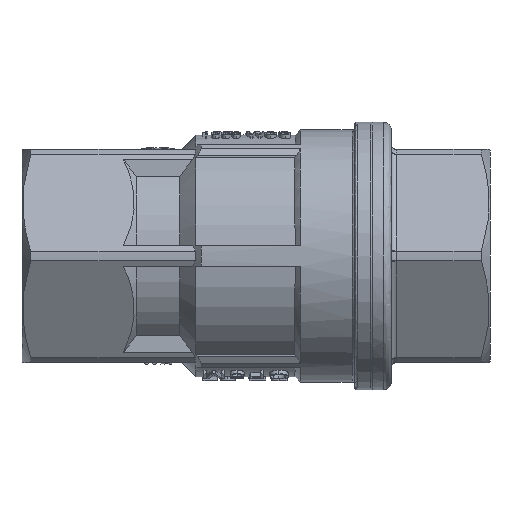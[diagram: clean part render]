
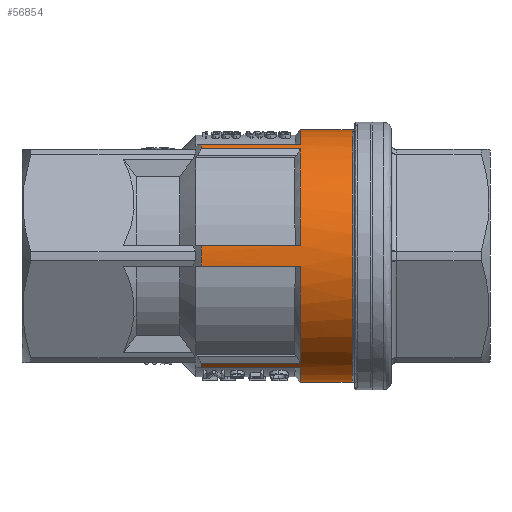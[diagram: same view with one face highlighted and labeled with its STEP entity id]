
A CAD part, front view. The second image highlights one B-rep face of the part: STEP entity #56854.
In plain terms, the highlighted cylindrical face has radius 24.25 mm (diameter 48.5 mm), a partial arc.
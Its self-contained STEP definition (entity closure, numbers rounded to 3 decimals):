
#25782 = CARTESIAN_POINT ( 'NONE',  ( -10.55, -12.769, 20.616 ) ) ;
#25856 = CARTESIAN_POINT ( 'NONE',  ( -10.55, -11.47, 21.366 ) ) ;
#25860 = DIRECTION ( 'NONE',  ( 0., -1., 0. ) ) ;
#25861 = DIRECTION ( 'NONE',  ( -1., 0., 0. ) ) ;
#25862 = CARTESIAN_POINT ( 'NONE',  ( -10.55, 0., 0. ) ) ;
#25863 = AXIS2_PLACEMENT_3D ( 'NONE', #25862, #25861, #25860 ) ;
#25865 = CARTESIAN_POINT ( 'NONE',  ( -10.55, -12.769, -20.616 ) ) ;
#25873 = CIRCLE ( 'NONE', #25863, 24.25 ) ;
#25878 = DIRECTION ( 'NONE',  ( 0., -1., 0. ) ) ;
#25880 = DIRECTION ( 'NONE',  ( -1., 0., 0. ) ) ;
#25882 = CARTESIAN_POINT ( 'NONE',  ( -10.55, 0., 0. ) ) ;
#25883 = AXIS2_PLACEMENT_3D ( 'NONE', #25882, #25880, #25878 ) ;
#25885 = CIRCLE ( 'NONE', #25883, 24.25 ) ;
#25904 = CARTESIAN_POINT ( 'NONE',  ( -10.55, -24.167, 2. ) ) ;
#25905 = DIRECTION ( 'NONE',  ( 0., -1., 0. ) ) ;
#25906 = DIRECTION ( 'NONE',  ( -1., 0., 0. ) ) ;
#25908 = AXIS2_PLACEMENT_3D ( 'NONE', #25915, #25906, #25905 ) ;
#25910 = CIRCLE ( 'NONE', #25908, 24.25 ) ;
#25915 = CARTESIAN_POINT ( 'NONE',  ( -10.55, 0., 0. ) ) ;
#39739 = VERTEX_POINT ( 'NONE', #63260 ) ;
#46333 = DIRECTION ( 'NONE',  ( 0., -1., 0. ) ) ;
#46334 = DIRECTION ( 'NONE',  ( -1., 0., 0. ) ) ;
#46335 = CARTESIAN_POINT ( 'NONE',  ( 8.5, 0., 0. ) ) ;
#46336 = AXIS2_PLACEMENT_3D ( 'NONE', #46335, #46334, #46333 ) ;
#46340 = CIRCLE ( 'NONE', #46336, 24.25 ) ;
#46362 = DIRECTION ( 'NONE',  ( -1., 0., 0. ) ) ;
#46363 = VECTOR ( 'NONE', #46362, 1000. ) ;
#46364 = CARTESIAN_POINT ( 'NONE',  ( 3.975, -12.769, 20.616 ) ) ;
#46365 = LINE ( 'NONE', #46364, #46363 ) ;
#46372 = CARTESIAN_POINT ( 'NONE',  ( 8.5, -24.167, 2. ) ) ;
#46384 = DIRECTION ( 'NONE',  ( 1., 0., 0. ) ) ;
#46385 = VECTOR ( 'NONE', #46384, 1000. ) ;
#46386 = CARTESIAN_POINT ( 'NONE',  ( 3.975, -24.167, 2. ) ) ;
#46392 = LINE ( 'NONE', #46386, #46385 ) ;
#46405 = DIRECTION ( 'NONE',  ( -1., 0., 0. ) ) ;
#46406 = VECTOR ( 'NONE', #46405, 1000. ) ;
#46407 = CARTESIAN_POINT ( 'NONE',  ( 3.975, -11.47, -21.366 ) ) ;
#46408 = LINE ( 'NONE', #46407, #46406 ) ;
#46426 = CARTESIAN_POINT ( 'NONE',  ( 8.5, -12.769, 20.616 ) ) ;
#46440 = CARTESIAN_POINT ( 'NONE',  ( 8.5, -11.47, 21.366 ) ) ;
#46441 = DIRECTION ( 'NONE',  ( 1., 0., 0. ) ) ;
#46442 = VECTOR ( 'NONE', #46441, 1000. ) ;
#46443 = CARTESIAN_POINT ( 'NONE',  ( 3.975, -11.47, 21.366 ) ) ;
#46444 = LINE ( 'NONE', #46443, #46442 ) ;
#46467 = DIRECTION ( 'NONE',  ( 0., -1., 0. ) ) ;
#46468 = DIRECTION ( 'NONE',  ( -1., 0., 0. ) ) ;
#46469 = CARTESIAN_POINT ( 'NONE',  ( 8.5, 0., 0. ) ) ;
#46470 = AXIS2_PLACEMENT_3D ( 'NONE', #46469, #46468, #46467 ) ;
#46471 = CIRCLE ( 'NONE', #46470, 24.25 ) ;
#46501 = DIRECTION ( 'NONE',  ( 1., 0., 0. ) ) ;
#46502 = VECTOR ( 'NONE', #46501, 1000. ) ;
#46503 = CARTESIAN_POINT ( 'NONE',  ( 3.975, -12.769, -20.616 ) ) ;
#46507 = LINE ( 'NONE', #46503, #46502 ) ;
#46975 = CARTESIAN_POINT ( 'NONE',  ( 8.5, -24.167, -2. ) ) ;
#46986 = DIRECTION ( 'NONE',  ( -1., 0., 0. ) ) ;
#46987 = VECTOR ( 'NONE', #46986, 1000. ) ;
#46988 = CARTESIAN_POINT ( 'NONE',  ( 3.975, -24.167, -2. ) ) ;
#46989 = LINE ( 'NONE', #46988, #46987 ) ;
#47319 = DIRECTION ( 'NONE',  ( 0., -1., 0. ) ) ;
#47320 = DIRECTION ( 'NONE',  ( 1., 0., 0. ) ) ;
#47321 = AXIS2_PLACEMENT_3D ( 'NONE', #47329, #47320, #47319 ) ;
#47322 = CIRCLE ( 'NONE', #47321, 24.25 ) ;
#47329 = CARTESIAN_POINT ( 'NONE',  ( 18.5, 0., 0. ) ) ;
#47382 = DIRECTION ( 'NONE',  ( 0., -1., 0. ) ) ;
#47383 = DIRECTION ( 'NONE',  ( -1., 0., 0. ) ) ;
#47384 = AXIS2_PLACEMENT_3D ( 'NONE', #47391, #47383, #47382 ) ;
#47385 = CIRCLE ( 'NONE', #47384, 24.25 ) ;
#47391 = CARTESIAN_POINT ( 'NONE',  ( 8.5, 0., 0. ) ) ;
#48445 = DIRECTION ( 'NONE',  ( 0., 0., 1. ) ) ;
#48446 = DIRECTION ( 'NONE',  ( -1., 0., 0. ) ) ;
#48447 = CARTESIAN_POINT ( 'NONE',  ( 18.5, 0., 0. ) ) ;
#48448 = AXIS2_PLACEMENT_3D ( 'NONE', #48447, #48446, #48445 ) ;
#48450 = CYLINDRICAL_SURFACE ( 'NONE', #48448, 24.25 ) ;
#48451 = FACE_OUTER_BOUND ( 'NONE', #56848, .T. ) ;
#53630 = VERTEX_POINT ( 'NONE', #64393 ) ;
#53632 = EDGE_CURVE ( 'NONE', #54329, #53630, #64387, .T. ) ;
#53942 = EDGE_CURVE ( 'NONE', #54334, #53956, #66439, .T. ) ;
#53956 = VERTEX_POINT ( 'NONE', #66490 ) ;
#54329 = VERTEX_POINT ( 'NONE', #70877 ) ;
#54331 = EDGE_CURVE ( 'NONE', #54333, #54329, #70876, .T. ) ;
#54333 = VERTEX_POINT ( 'NONE', #70867 ) ;
#54334 = VERTEX_POINT ( 'NONE', #70866 ) ;
#54393 = VERTEX_POINT ( 'NONE', #71063 ) ;
#54412 = VERTEX_POINT ( 'NONE', #71092 ) ;
#56083 = EDGE_CURVE ( 'NONE', #56135, #53956, #46340, .T. ) ;
#56092 = EDGE_CURVE ( 'NONE', #70786, #56101, #46392, .T. ) ;
#56101 = VERTEX_POINT ( 'NONE', #46372 ) ;
#56104 = EDGE_CURVE ( 'NONE', #56149, #70626, #46365, .T. ) ;
#56128 = EDGE_CURVE ( 'NONE', #53630, #54393, #46408, .T. ) ;
#56134 = EDGE_CURVE ( 'NONE', #70674, #56135, #46444, .T. ) ;
#56135 = VERTEX_POINT ( 'NONE', #46440 ) ;
#56149 = VERTEX_POINT ( 'NONE', #46426 ) ;
#56152 = EDGE_CURVE ( 'NONE', #56101, #56149, #46471, .T. ) ;
#56195 = EDGE_CURVE ( 'NONE', #70634, #39739, #46507, .T. ) ;
#56288 = EDGE_CURVE ( 'NONE', #56296, #54412, #46989, .T. ) ;
#56296 = VERTEX_POINT ( 'NONE', #46975 ) ;
#56359 = EDGE_CURVE ( 'NONE', #54334, #54333, #47322, .T. ) ;
#56375 = EDGE_CURVE ( 'NONE', #39739, #56296, #47385, .T. ) ;
#56412 = ORIENTED_EDGE ( 'NONE', *, *, #56359, .F. ) ;
#56814 = ORIENTED_EDGE ( 'NONE', *, *, #56128, .F. ) ;
#56816 = ORIENTED_EDGE ( 'NONE', *, *, #56134, .F. ) ;
#56817 = ORIENTED_EDGE ( 'NONE', *, *, #56195, .F. ) ;
#56818 = ORIENTED_EDGE ( 'NONE', *, *, #56288, .F. ) ;
#56820 = ORIENTED_EDGE ( 'NONE', *, *, #70791, .F. ) ;
#56824 = ORIENTED_EDGE ( 'NONE', *, *, #56152, .F. ) ;
#56829 = ORIENTED_EDGE ( 'NONE', *, *, #70694, .F. ) ;
#56830 = ORIENTED_EDGE ( 'NONE', *, *, #56092, .F. ) ;
#56831 = ORIENTED_EDGE ( 'NONE', *, *, #56104, .F. ) ;
#56832 = ORIENTED_EDGE ( 'NONE', *, *, #53942, .T. ) ;
#56844 = ORIENTED_EDGE ( 'NONE', *, *, #54331, .F. ) ;
#56848 = EDGE_LOOP ( 'NONE', ( #56844, #56412, #56832, #56892, #56816, #56829, #56831, #56824, #56830, #56888, #56818, #56894, #56817, #56820, #56814, #56878 ) ) ;
#56854 = ADVANCED_FACE ( 'NONE', ( #48451 ), #48450, .T. ) ;
#56878 = ORIENTED_EDGE ( 'NONE', *, *, #53632, .F. ) ;
#56888 = ORIENTED_EDGE ( 'NONE', *, *, #70631, .F. ) ;
#56892 = ORIENTED_EDGE ( 'NONE', *, *, #56083, .F. ) ;
#56894 = ORIENTED_EDGE ( 'NONE', *, *, #56375, .F. ) ;
#63260 = CARTESIAN_POINT ( 'NONE',  ( 8.5, -12.769, -20.616 ) ) ;
#64383 = DIRECTION ( 'NONE',  ( 0., -1., 0. ) ) ;
#64384 = DIRECTION ( 'NONE',  ( -1., 0., 0. ) ) ;
#64385 = CARTESIAN_POINT ( 'NONE',  ( 8.5, 0., 0. ) ) ;
#64386 = AXIS2_PLACEMENT_3D ( 'NONE', #64385, #64384, #64383 ) ;
#64387 = CIRCLE ( 'NONE', #64386, 24.25 ) ;
#64393 = CARTESIAN_POINT ( 'NONE',  ( 8.5, -11.47, -21.366 ) ) ;
#66436 = DIRECTION ( 'NONE',  ( -1., 0., 0. ) ) ;
#66437 = VECTOR ( 'NONE', #66436, 1000. ) ;
#66438 = CARTESIAN_POINT ( 'NONE',  ( 18.5, 0., 24.25 ) ) ;
#66439 = LINE ( 'NONE', #66438, #66437 ) ;
#66490 = CARTESIAN_POINT ( 'NONE',  ( 8.5, 0., 24.25 ) ) ;
#70626 = VERTEX_POINT ( 'NONE', #25782 ) ;
#70631 = EDGE_CURVE ( 'NONE', #54412, #70786, #25873, .T. ) ;
#70634 = VERTEX_POINT ( 'NONE', #25865 ) ;
#70674 = VERTEX_POINT ( 'NONE', #25856 ) ;
#70694 = EDGE_CURVE ( 'NONE', #70626, #70674, #25910, .T. ) ;
#70786 = VERTEX_POINT ( 'NONE', #25904 ) ;
#70791 = EDGE_CURVE ( 'NONE', #54393, #70634, #25885, .T. ) ;
#70866 = CARTESIAN_POINT ( 'NONE',  ( 18.5, 0., 24.25 ) ) ;
#70867 = CARTESIAN_POINT ( 'NONE',  ( 18.5, 0., -24.25 ) ) ;
#70873 = DIRECTION ( 'NONE',  ( -1., 0., 0. ) ) ;
#70874 = VECTOR ( 'NONE', #70873, 1000. ) ;
#70875 = CARTESIAN_POINT ( 'NONE',  ( 18.5, 0., -24.25 ) ) ;
#70876 = LINE ( 'NONE', #70875, #70874 ) ;
#70877 = CARTESIAN_POINT ( 'NONE',  ( 8.5, 0., -24.25 ) ) ;
#71063 = CARTESIAN_POINT ( 'NONE',  ( -10.55, -11.47, -21.366 ) ) ;
#71092 = CARTESIAN_POINT ( 'NONE',  ( -10.55, -24.167, -2. ) ) ;
